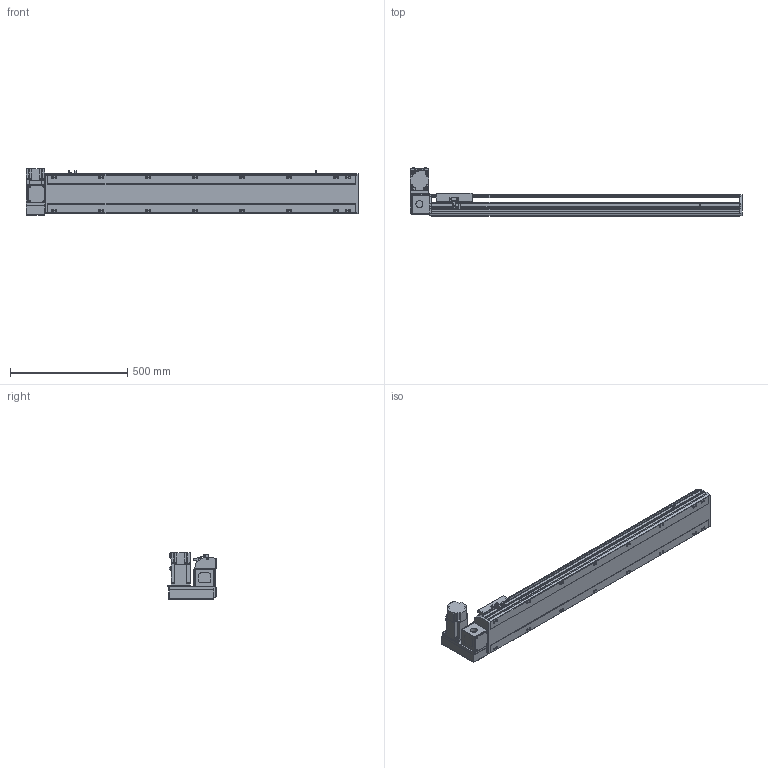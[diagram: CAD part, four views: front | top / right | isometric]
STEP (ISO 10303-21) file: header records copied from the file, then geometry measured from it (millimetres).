
FILE_DESCRIPTION( ( 'STEP AP214' ), '1' );
FILE_NAME( 'x:/temp/worker_4/temp/exporttempdir_2248_395_gO1Bg/format_0/PBS170-P40-S1050-LU-T75-C1-N(0).stp', '2022-06-07T08:15:14', ( 'License CC BY-ND 4.0' ), ( 'CADENAS' ), ' ', 'PARTsolutions', ' ' );
FILE_SCHEMA( ( 'AUTOMOTIVE_DESIGN { 1 0 10303 214 1 1 1 1 }' ) );
Length unit declared in the file: millimetre
Products named in the file (7): PBS170-P40-S1050-LU-T75-C1-N(0); _PBS170-S1050()_body; _PBS170T-LU_motors; _T75-p1; _PBS170_sliser; _PBS170_plant; _PBS170_sensor
Assembly tree (8 placements, depth 2):
  PBS170-P40-S1050-LU-T75-C1-N(0)
    _PBS170-S1050()_body
    _PBS170T-LU_motors
    _T75-p1
    _PBS170_sliser
    _PBS170_plant
    _PBS170_sensor  x3
Bounding box: 1413 x 206 x 197.3 mm (x, y, z)
Volume: 11343947.6 mm3; surface area: 1484227.3 mm2
Topology: 8 solids, 8 shells, 1082 faces, 2875 edges, 1874 vertices
Faces by surface type: plane 687, cylinder 339, cone 46, sphere 8, torus 2
Full cylindrical faces by diameter (mm): 3.242 x4, 4 x2, 4.4 x4, 4.5 x6, 4.917 x4, 6 x9, 6.647 x24, 7 x2, 7.5 x4, 8 x8, 8.5 x16, 10 x4, 10.5 x16, 11 x2, 30 x2, 40 x1, 70 x1
Entity records: 39740 total; most frequent: CARTESIAN_POINT 6221, DIRECTION 5300, ORIENTED_EDGE 5028, EDGE_CURVE 2514, AXIS2_PLACEMENT_3D 1837, VERTEX_POINT 1730, LINE 1626, VECTOR 1626
